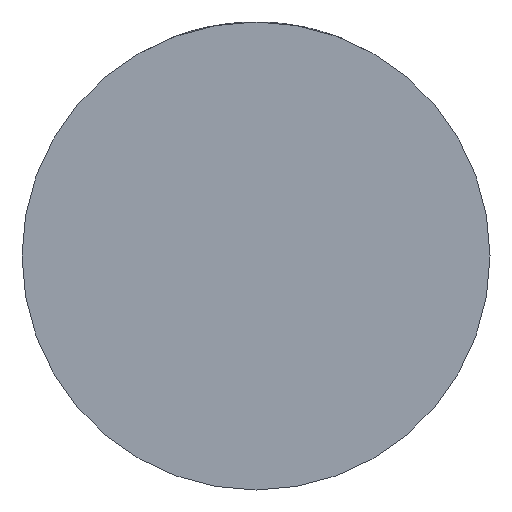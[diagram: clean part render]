
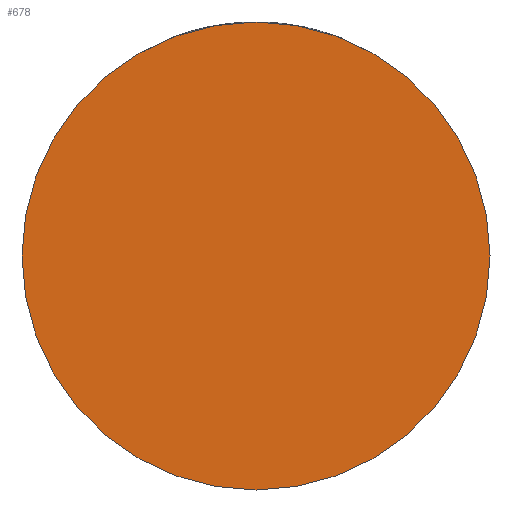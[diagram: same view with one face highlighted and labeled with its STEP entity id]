
A CAD part, front view. The second image highlights one B-rep face of the part: STEP entity #678.
In plain terms, the highlighted planar face has unit normal (0, -1, 0).
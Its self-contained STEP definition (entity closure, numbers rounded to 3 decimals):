
#315 = DIRECTION ( 'NONE',  ( 1., 0., 0. ) ) ;
#418 = CARTESIAN_POINT ( 'NONE',  ( 0., -20., 0. ) ) ;
#678 = ADVANCED_FACE ( 'NONE', ( #2875 ), #1922, .T. ) ;
#884 = AXIS2_PLACEMENT_3D ( 'NONE', #3661, #4526, #315 ) ;
#939 = DIRECTION ( 'NONE',  ( -1., 0., 0. ) ) ;
#1441 = EDGE_LOOP ( 'NONE', ( #4768, #2268 ) ) ;
#1507 = EDGE_CURVE ( 'NONE', #3918, #2079, #3708, .T. ) ;
#1750 = EDGE_CURVE ( 'NONE', #2079, #3918, #2672, .T. ) ;
#1806 = AXIS2_PLACEMENT_3D ( 'NONE', #418, #4604, #939 ) ;
#1922 = PLANE ( 'NONE',  #884 ) ;
#2079 = VERTEX_POINT ( 'NONE', #4439 ) ;
#2233 = AXIS2_PLACEMENT_3D ( 'NONE', #2864, #4105, #5146 ) ;
#2268 = ORIENTED_EDGE ( 'NONE', *, *, #1507, .F. ) ;
#2672 = CIRCLE ( 'NONE', #1806, 27.5 ) ;
#2864 = CARTESIAN_POINT ( 'NONE',  ( 0., -20., 0. ) ) ;
#2875 = FACE_OUTER_BOUND ( 'NONE', #1441, .T. ) ;
#3137 = CARTESIAN_POINT ( 'NONE',  ( 27.5, -20., 0. ) ) ;
#3661 = CARTESIAN_POINT ( 'NONE',  ( 0., -20., 0. ) ) ;
#3708 = CIRCLE ( 'NONE', #2233, 27.5 ) ;
#3918 = VERTEX_POINT ( 'NONE', #3137 ) ;
#4105 = DIRECTION ( 'NONE',  ( 0., 1., 0. ) ) ;
#4439 = CARTESIAN_POINT ( 'NONE',  ( -27.5, -20., 0. ) ) ;
#4526 = DIRECTION ( 'NONE',  ( 0., -1., 0. ) ) ;
#4604 = DIRECTION ( 'NONE',  ( 0., 1., 0. ) ) ;
#4768 = ORIENTED_EDGE ( 'NONE', *, *, #1750, .F. ) ;
#5146 = DIRECTION ( 'NONE',  ( -1., 0., 0. ) ) ;
